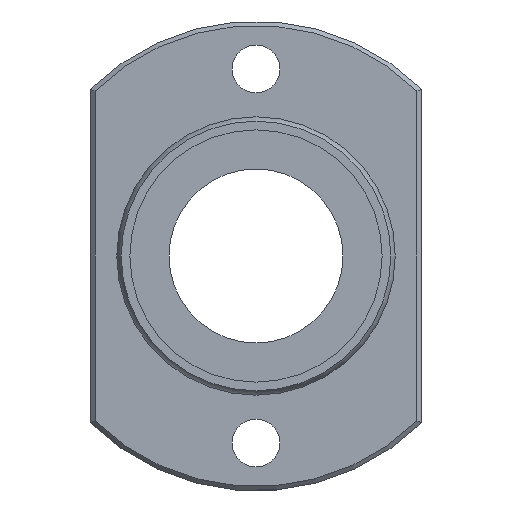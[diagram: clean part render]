
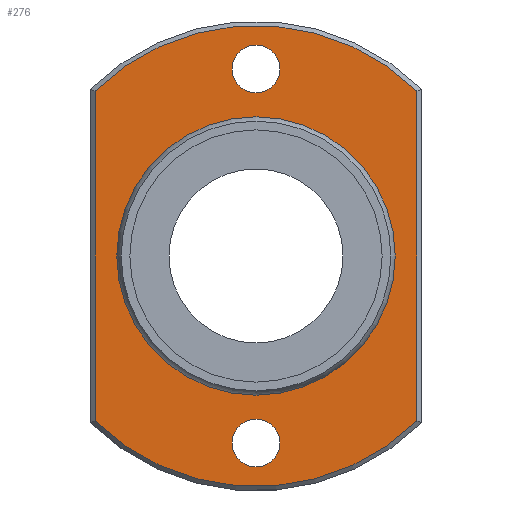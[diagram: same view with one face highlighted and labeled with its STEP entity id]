
A CAD part, left-side view. The second image highlights one B-rep face of the part: STEP entity #276.
In plain terms, the highlighted planar face has unit normal (-1, 0, 0).
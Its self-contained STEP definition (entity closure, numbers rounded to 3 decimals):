
#59=CARTESIAN_POINT('',(8.,18.5,-18.974));
#60=VERTEX_POINT('',#59);
#68=CARTESIAN_POINT('',(8.,18.5,18.974));
#69=VERTEX_POINT('',#68);
#70=CARTESIAN_POINT('',(8.,18.5,-18.974));
#71=DIRECTION('',(0.0,0.0,1.0));
#72=VECTOR('',#71,37.947);
#73=LINE('',#70,#72);
#74=EDGE_CURVE('',#60,#69,#73,.T.);
#101=CARTESIAN_POINT('',(8.,-18.5,18.974));
#102=VERTEX_POINT('',#101);
#103=CARTESIAN_POINT('',(8.,0.0,0.0));
#104=DIRECTION('',(1.0,0.0,0.0));
#105=DIRECTION('',(0.0,0.0,1.0));
#106=AXIS2_PLACEMENT_3D('',#103,#104,#105);
#107=CIRCLE('',#106,26.5);
#108=EDGE_CURVE('',#69,#102,#107,.T.);
#134=CARTESIAN_POINT('',(8.,-18.5,-18.974));
#135=VERTEX_POINT('',#134);
#136=CARTESIAN_POINT('',(8.,-18.5,18.974));
#137=DIRECTION('',(0.0,0.0,-1.0));
#138=VECTOR('',#137,37.947);
#139=LINE('',#136,#138);
#140=EDGE_CURVE('',#102,#135,#139,.T.);
#165=CARTESIAN_POINT('',(8.,0.0,0.0));
#166=DIRECTION('',(1.0,0.0,0.0));
#167=DIRECTION('',(0.0,0.0,-1.0));
#168=AXIS2_PLACEMENT_3D('',#165,#166,#167);
#169=CIRCLE('',#168,26.5);
#170=EDGE_CURVE('',#135,#60,#169,.T.);
#232=CARTESIAN_POINT('',(8.,0.0,21.387));
#233=DIRECTION('',(-1.0,0.0,0.0));
#234=DIRECTION('',(0.0,0.0,1.0));
#235=AXIS2_PLACEMENT_3D('',#232,#233,#234);
#236=PLANE('',#235);
#237=ORIENTED_EDGE('',*,*,#74,.F.);
#238=ORIENTED_EDGE('',*,*,#170,.F.);
#239=ORIENTED_EDGE('',*,*,#140,.F.);
#240=ORIENTED_EDGE('',*,*,#108,.F.);
#241=EDGE_LOOP('',(#237,#238,#239,#240));
#242=FACE_OUTER_BOUND('',#241,.T.);
#243=CARTESIAN_POINT('',(8.,0.0,15.773));
#244=VERTEX_POINT('',#243);
#245=CARTESIAN_POINT('',(8.,0.0,0.0));
#246=DIRECTION('',(-1.0,0.0,0.0));
#247=DIRECTION('',(0.0,0.0,1.0));
#248=AXIS2_PLACEMENT_3D('',#245,#246,#247);
#249=CIRCLE('',#248,15.773);
#250=EDGE_CURVE('',#244,#244,#249,.T.);
#251=ORIENTED_EDGE('',*,*,#250,.F.);
#252=EDGE_LOOP('',(#251));
#253=FACE_BOUND('',#252,.T.);
#254=CARTESIAN_POINT('',(8.,-2.75,-21.5));
#255=VERTEX_POINT('',#254);
#256=CARTESIAN_POINT('',(8.,0.,-21.5));
#257=DIRECTION('',(1.0,0.0,0.0));
#258=DIRECTION('',(0.0,1.0,0.0));
#259=AXIS2_PLACEMENT_3D('',#256,#257,#258);
#260=CIRCLE('',#259,2.75);
#261=EDGE_CURVE('',#255,#255,#260,.T.);
#262=ORIENTED_EDGE('',*,*,#261,.T.);
#263=EDGE_LOOP('',(#262));
#264=FACE_BOUND('',#263,.T.);
#265=CARTESIAN_POINT('',(8.,-2.75,21.5));
#266=VERTEX_POINT('',#265);
#267=CARTESIAN_POINT('',(8.,0.,21.5));
#268=DIRECTION('',(1.0,0.0,0.0));
#269=DIRECTION('',(0.0,1.0,0.0));
#270=AXIS2_PLACEMENT_3D('',#267,#268,#269);
#271=CIRCLE('',#270,2.75);
#272=EDGE_CURVE('',#266,#266,#271,.T.);
#273=ORIENTED_EDGE('',*,*,#272,.T.);
#274=EDGE_LOOP('',(#273));
#275=FACE_BOUND('',#274,.T.);
#276=ADVANCED_FACE('',(#242,#253,#264,#275),#236,.T.);
